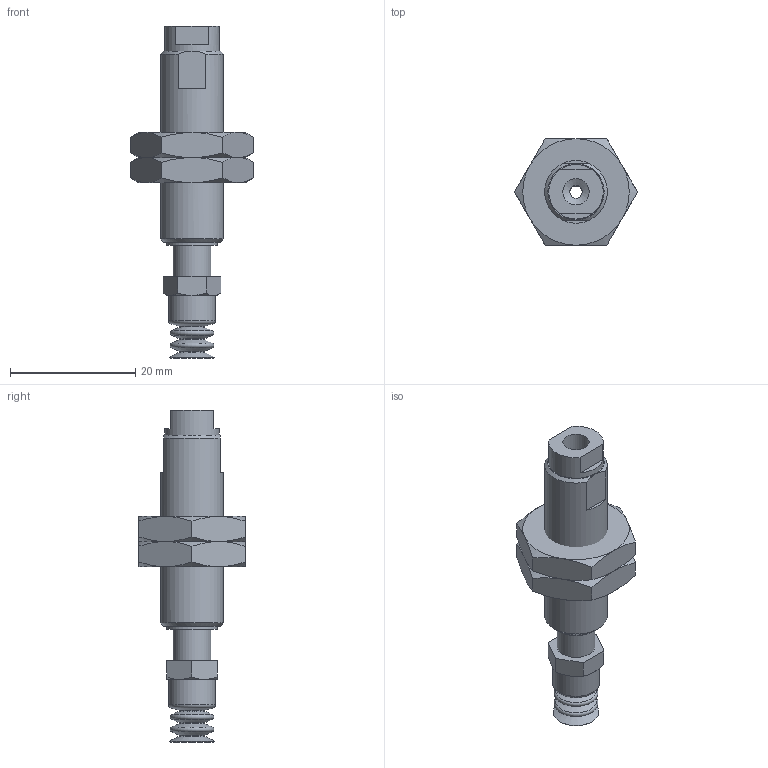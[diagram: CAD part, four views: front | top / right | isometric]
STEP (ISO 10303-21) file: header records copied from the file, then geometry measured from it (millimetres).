
FILE_DESCRIPTION(('STEP AP203'),'1');
FILE_NAME('-LB.stp','2025-04-04T01:22:21',(' '),(' '),'Spatial InterOp 3D',' ',' ');
FILE_SCHEMA(('CONFIG_CONTROL_DESIGN'));
Length unit declared in the file: millimetre
Products named in the file (8): BNABPCTH-7-5-※-LB; __; BODY; NUT; TN-PS-10-M5; Setting screws-TN-PS-10-M5; BPCG-7-※
Assembly tree (7 placements, depth 3):
  BNABPCTH-7-5-※-LB
    __
    BODY
    NUT
    NUT
    TN-PS-10-M5
      Setting screws-TN-PS-10-M5
    BPCG-7-※
Bounding box: 19.63 x 17 x 53 mm (x, y, z)
Volume: 4490 mm3; surface area: 4023 mm2
Topology: 6 solids, 6 shells, 133 faces, 275 edges, 162 vertices
Faces by surface type: plane 58, cone 45, cylinder 18, torus 12
Full cylindrical faces by diameter (mm): 2 x3, 3.9 x1, 4 x2, 4.2 x2, 5 x1, 6 x3, 7.5 x1, 8 x1, 8.7 x1, 9 x2, 10 x1
Entity records: 3754 total; most frequent: CARTESIAN_POINT 762, DIRECTION 552, ORIENTED_EDGE 458, AXIS2_PLACEMENT_3D 245, EDGE_CURVE 229, EDGE_LOOP 196, FACE_OUTER_BOUND 163, VERTEX_POINT 159
